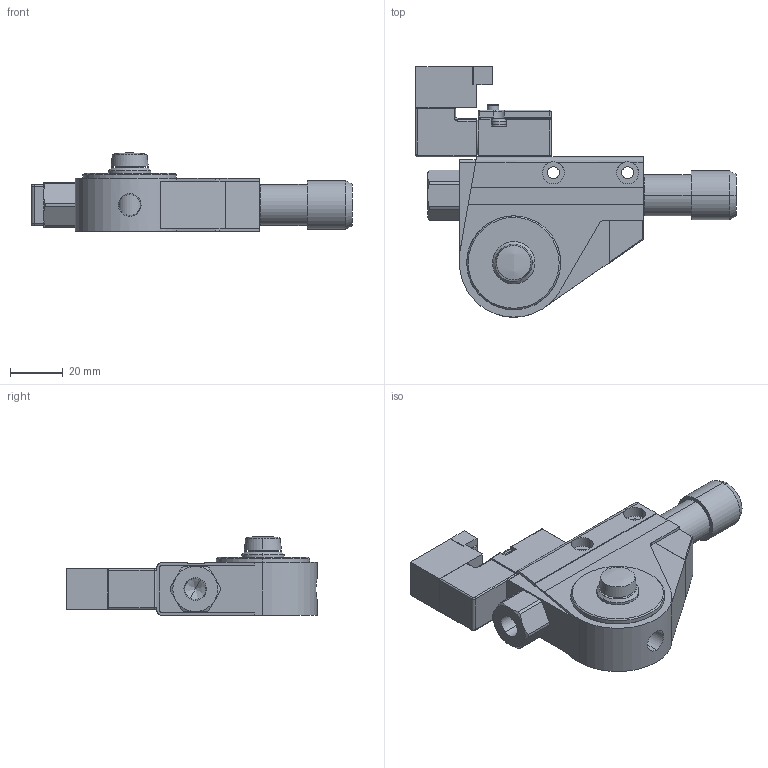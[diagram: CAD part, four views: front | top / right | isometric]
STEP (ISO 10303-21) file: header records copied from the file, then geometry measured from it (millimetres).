
FILE_DESCRIPTION( (''), '2;1');
FILE_NAME ('WS50.11680.CVF-2-####A#_15272.stp','2020-11-09T14:38:53',(''),(''),'spGate 14.4.8','','');
FILE_SCHEMA (('AUTOMOTIVE_DESIGN'));
Length unit declared in the file: millimetre
Products named in the file (15): Assembly; CVF-2_z___^_C; _c_M_e; P5142_d_____1; MSS-01; _J_K_~_C_^Assy; _v___O_u___b_N_1; P5142_d_____2; P5142_d_____3; P5142_d_____4; P5142_d_____5; _v___O_u___b_N_2; _v___O_u___b_N_3; _v___O_u___b_N_4; _v___O_u___b_N_5
Assembly tree (14 placements, depth 2):
  Assembly
    CVF-2_z___^_C
    _c_M_e
    P5142_d_____1
    MSS-01
    _J_K_~_C_^Assy
    _v___O_u___b_N_1
    P5142_d_____2
    P5142_d_____3
    P5142_d_____4
    P5142_d_____5
    _v___O_u___b_N_2
    _v___O_u___b_N_3
    _v___O_u___b_N_4
    _v___O_u___b_N_5
Bounding box: 120.95 x 94.5 x 29.8 mm (x, y, z)
Volume: 88421.5 mm3; surface area: 32295.9 mm2
Topology: 14 solids, 14 shells, 465 faces, 1103 edges, 696 vertices
Faces by surface type: plane 211, cylinder 187, bspline 58, sphere 9
Entity records: 23389 total; most frequent: CARTESIAN_POINT 3490, DIRECTION 2196, ORIENTED_EDGE 2186, COLOUR_RGB 1572, PRESENTATION_STYLE_ASSIGNMENT 1572, STYLED_ITEM 1572, EDGE_CURVE 1093, DRAUGHTING_PRE_DEFINED_CURVE_FONT 1093
